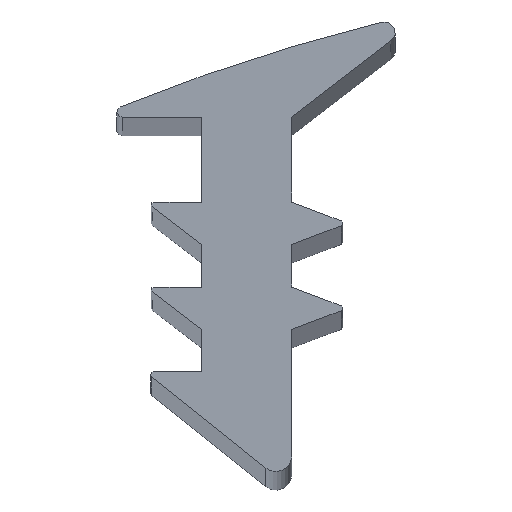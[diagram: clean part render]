
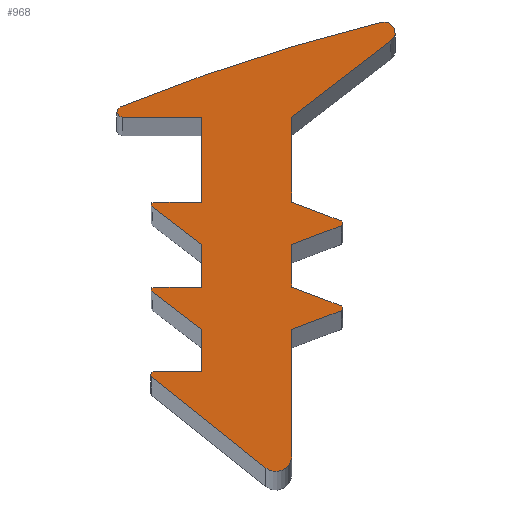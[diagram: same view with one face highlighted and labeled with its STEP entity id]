
A CAD part, top view. The second image highlights one B-rep face of the part: STEP entity #968.
In plain terms, the highlighted planar face has unit normal (0, 0, 1).
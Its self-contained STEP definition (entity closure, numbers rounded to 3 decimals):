
#49=CARTESIAN_POINT('',(-7.271,-13.665,200.0));
#50=VERTEX_POINT('',#49);
#51=CARTESIAN_POINT('',(-7.308,-13.472,200.0));
#52=VERTEX_POINT('',#51);
#53=CARTESIAN_POINT('',(-7.271,-13.565,200.0));
#54=DIRECTION('',(0.0,0.0,-1.));
#55=DIRECTION('',(-0.982,-0.191,0.0));
#56=AXIS2_PLACEMENT_3D('',#53,#54,#55);
#57=CIRCLE('',#56,0.1);
#58=EDGE_CURVE('',#50,#52,#57,.T.);
#100=CARTESIAN_POINT('',(-5.775,-13.665,200.0));
#101=VERTEX_POINT('',#100);
#108=CARTESIAN_POINT('',(-5.775,-13.665,200.0));
#109=DIRECTION('',(-1.0,0.0,0.0));
#110=VECTOR('',#109,1.496);
#111=LINE('',#108,#110);
#112=EDGE_CURVE('',#101,#50,#111,.T.);
#338=CARTESIAN_POINT('',(-4.075,-20.041,200.0));
#339=VERTEX_POINT('',#338);
#340=CARTESIAN_POINT('',(-4.563,-20.275,200.0));
#341=VERTEX_POINT('',#340);
#342=CARTESIAN_POINT('',(-4.375,-20.041,200.0));
#343=DIRECTION('',(0.0,0.0,-1.));
#344=DIRECTION('',(0.433,-0.901,0.0));
#345=AXIS2_PLACEMENT_3D('',#342,#343,#344);
#346=CIRCLE('',#345,0.3);
#347=EDGE_CURVE('',#339,#341,#346,.T.);
#372=CARTESIAN_POINT('',(-4.075,-17.665,200.0));
#373=VERTEX_POINT('',#372);
#380=CARTESIAN_POINT('',(-4.075,-17.665,200.0));
#381=DIRECTION('',(0.0,-1.0,0.0));
#382=VECTOR('',#381,2.376);
#383=LINE('',#380,#382);
#384=EDGE_CURVE('',#373,#339,#383,.T.);
#394=CARTESIAN_POINT('',(-2.377,-11.876,200.0));
#395=VERTEX_POINT('',#394);
#396=CARTESIAN_POINT('',(-2.207,-12.228,200.0));
#397=VERTEX_POINT('',#396);
#398=CARTESIAN_POINT('',(-2.329,-12.07,200.0));
#399=DIRECTION('',(0.0,0.0,-1.0));
#400=DIRECTION('',(0.901,0.434,0.0));
#401=AXIS2_PLACEMENT_3D('',#398,#399,#400);
#402=CIRCLE('',#401,0.2);
#403=EDGE_CURVE('',#395,#397,#402,.T.);
#427=CARTESIAN_POINT('',(6.345,-47.22,200.0));
#428=DIRECTION('',(0.0,0.0,-1.));
#429=DIRECTION('',(-0.215,0.977,0.0));
#430=AXIS2_PLACEMENT_3D('',#427,#428,#429);
#431=CIRCLE('',#430,36.405);
#432=EDGE_CURVE('',#52,#395,#431,.T.);
#444=CARTESIAN_POINT('',(-6.707,-16.955,200.0));
#445=VERTEX_POINT('',#444);
#446=CARTESIAN_POINT('',(-6.677,-16.865,200.0));
#447=VERTEX_POINT('',#446);
#448=CARTESIAN_POINT('',(-6.677,-16.915,200.0));
#449=DIRECTION('',(0.0,0.0,-1.));
#450=DIRECTION('',(-0.947,0.32,0.0));
#451=AXIS2_PLACEMENT_3D('',#448,#449,#450);
#452=CIRCLE('',#451,0.05);
#453=EDGE_CURVE('',#445,#447,#452,.T.);
#478=CARTESIAN_POINT('',(-5.775,-17.665,200.0));
#479=VERTEX_POINT('',#478);
#486=CARTESIAN_POINT('',(-5.775,-17.665,200.0));
#487=DIRECTION('',(-0.795,0.606,0.0));
#488=VECTOR('',#487,1.172);
#489=LINE('',#486,#488);
#490=EDGE_CURVE('',#479,#445,#489,.T.);
#500=CARTESIAN_POINT('',(-6.714,-18.554,200.0));
#501=VERTEX_POINT('',#500);
#502=CARTESIAN_POINT('',(-6.683,-18.465,200.0));
#503=VERTEX_POINT('',#502);
#504=CARTESIAN_POINT('',(-6.683,-18.515,200.0));
#505=DIRECTION('',(0.0,0.0,-1.));
#506=DIRECTION('',(-0.944,0.331,0.0));
#507=AXIS2_PLACEMENT_3D('',#504,#505,#506);
#508=CIRCLE('',#507,0.05);
#509=EDGE_CURVE('',#501,#503,#508,.T.);
#533=CARTESIAN_POINT('',(-4.563,-20.275,200.0));
#534=DIRECTION('',(-0.781,0.625,0.0));
#535=VECTOR('',#534,2.755);
#536=LINE('',#533,#535);
#537=EDGE_CURVE('',#341,#501,#536,.T.);
#549=CARTESIAN_POINT('',(-3.148,-17.218,200.0));
#550=VERTEX_POINT('',#549);
#551=CARTESIAN_POINT('',(-3.148,-17.312,200.0));
#552=VERTEX_POINT('',#551);
#553=CARTESIAN_POINT('',(-3.166,-17.265,200.0));
#554=DIRECTION('',(0.0,0.0,-1.0));
#555=DIRECTION('',(1.0,0.0,0.0));
#556=AXIS2_PLACEMENT_3D('',#553,#554,#555);
#557=CIRCLE('',#556,0.05);
#558=EDGE_CURVE('',#550,#552,#557,.T.);
#583=CARTESIAN_POINT('',(-4.075,-16.865,200.0));
#584=VERTEX_POINT('',#583);
#591=CARTESIAN_POINT('',(-4.075,-16.865,200.0));
#592=DIRECTION('',(0.934,-0.356,0.0));
#593=VECTOR('',#592,0.992);
#594=LINE('',#591,#593);
#595=EDGE_CURVE('',#584,#550,#594,.T.);
#605=CARTESIAN_POINT('',(-3.148,-15.618,200.0));
#606=VERTEX_POINT('',#605);
#607=CARTESIAN_POINT('',(-3.148,-15.712,200.0));
#608=VERTEX_POINT('',#607);
#609=CARTESIAN_POINT('',(-3.166,-15.665,200.0));
#610=DIRECTION('',(0.0,0.0,-1.0));
#611=DIRECTION('',(1.0,0.0,0.0));
#612=AXIS2_PLACEMENT_3D('',#609,#610,#611);
#613=CIRCLE('',#612,0.05);
#614=EDGE_CURVE('',#606,#608,#613,.T.);
#639=CARTESIAN_POINT('',(-4.075,-15.265,200.0));
#640=VERTEX_POINT('',#639);
#647=CARTESIAN_POINT('',(-4.075,-15.265,200.0));
#648=DIRECTION('',(0.934,-0.356,0.0));
#649=VECTOR('',#648,0.992);
#650=LINE('',#647,#649);
#651=EDGE_CURVE('',#640,#606,#650,.T.);
#661=CARTESIAN_POINT('',(-6.707,-15.355,200.0));
#662=VERTEX_POINT('',#661);
#663=CARTESIAN_POINT('',(-6.677,-15.265,200.0));
#664=VERTEX_POINT('',#663);
#665=CARTESIAN_POINT('',(-6.677,-15.315,200.0));
#666=DIRECTION('',(0.0,0.0,-1.0));
#667=DIRECTION('',(-0.947,0.32,0.0));
#668=AXIS2_PLACEMENT_3D('',#665,#666,#667);
#669=CIRCLE('',#668,0.05);
#670=EDGE_CURVE('',#662,#664,#669,.T.);
#694=CARTESIAN_POINT('',(-5.775,-15.265,200.0));
#695=VERTEX_POINT('',#694);
#696=CARTESIAN_POINT('',(-6.677,-15.265,200.0));
#697=DIRECTION('',(1.0,0.0,0.0));
#698=VECTOR('',#697,0.902);
#699=LINE('',#696,#698);
#700=EDGE_CURVE('',#664,#695,#699,.T.);
#718=CARTESIAN_POINT('',(-4.075,-13.665,200.0));
#719=VERTEX_POINT('',#718);
#720=CARTESIAN_POINT('',(-2.207,-12.228,200.0));
#721=DIRECTION('',(-0.793,-0.61,0.0));
#722=VECTOR('',#721,2.357);
#723=LINE('',#720,#722);
#724=EDGE_CURVE('',#397,#719,#723,.T.);
#741=CARTESIAN_POINT('',(-4.075,-13.665,200.0));
#742=DIRECTION('',(0.0,-1.0,0.0));
#743=VECTOR('',#742,1.6);
#744=LINE('',#741,#743);
#745=EDGE_CURVE('',#719,#640,#744,.T.);
#759=CARTESIAN_POINT('',(-4.075,-16.065,200.0));
#760=VERTEX_POINT('',#759);
#761=CARTESIAN_POINT('',(-3.148,-15.712,200.0));
#762=DIRECTION('',(-0.934,-0.356,0.0));
#763=VECTOR('',#762,0.992);
#764=LINE('',#761,#763);
#765=EDGE_CURVE('',#608,#760,#764,.T.);
#782=CARTESIAN_POINT('',(-4.075,-16.065,200.0));
#783=DIRECTION('',(0.0,-1.0,0.0));
#784=VECTOR('',#783,0.8);
#785=LINE('',#782,#784);
#786=EDGE_CURVE('',#760,#584,#785,.T.);
#800=CARTESIAN_POINT('',(-3.148,-17.312,200.0));
#801=DIRECTION('',(-0.934,-0.356,0.0));
#802=VECTOR('',#801,0.992);
#803=LINE('',#800,#802);
#804=EDGE_CURVE('',#552,#373,#803,.T.);
#817=CARTESIAN_POINT('',(-5.775,-18.465,200.0));
#818=VERTEX_POINT('',#817);
#819=CARTESIAN_POINT('',(-6.683,-18.465,200.0));
#820=DIRECTION('',(1.0,0.0,0.0));
#821=VECTOR('',#820,0.907);
#822=LINE('',#819,#821);
#823=EDGE_CURVE('',#503,#818,#822,.T.);
#840=CARTESIAN_POINT('',(-5.775,-18.465,200.0));
#841=DIRECTION('',(0.0,1.0,0.0));
#842=VECTOR('',#841,0.8);
#843=LINE('',#840,#842);
#844=EDGE_CURVE('',#818,#479,#843,.T.);
#858=CARTESIAN_POINT('',(-5.775,-16.865,200.0));
#859=VERTEX_POINT('',#858);
#860=CARTESIAN_POINT('',(-6.677,-16.865,200.0));
#861=DIRECTION('',(1.0,0.0,0.0));
#862=VECTOR('',#861,0.902);
#863=LINE('',#860,#862);
#864=EDGE_CURVE('',#447,#859,#863,.T.);
#881=CARTESIAN_POINT('',(-5.775,-16.065,200.0));
#882=VERTEX_POINT('',#881);
#883=CARTESIAN_POINT('',(-5.775,-16.865,200.0));
#884=DIRECTION('',(0.0,1.0,0.0));
#885=VECTOR('',#884,0.8);
#886=LINE('',#883,#885);
#887=EDGE_CURVE('',#859,#882,#886,.T.);
#908=CARTESIAN_POINT('',(-5.775,-16.065,200.0));
#909=DIRECTION('',(-0.795,0.606,0.0));
#910=VECTOR('',#909,1.172);
#911=LINE('',#908,#910);
#912=EDGE_CURVE('',#882,#662,#911,.T.);
#922=CARTESIAN_POINT('',(-5.775,-15.265,200.0));
#923=DIRECTION('',(0.0,1.0,0.0));
#924=VECTOR('',#923,1.6);
#925=LINE('',#922,#924);
#926=EDGE_CURVE('',#695,#101,#925,.T.);
#934=CARTESIAN_POINT('',(-4.826,-15.631,200.0));
#935=DIRECTION('',(0.0,0.0,1.0));
#936=DIRECTION('',(1.0,0.0,0.0));
#937=AXIS2_PLACEMENT_3D('',#934,#935,#936);
#938=PLANE('',#937);
#939=ORIENTED_EDGE('',*,*,#58,.F.);
#940=ORIENTED_EDGE('',*,*,#112,.F.);
#941=ORIENTED_EDGE('',*,*,#926,.F.);
#942=ORIENTED_EDGE('',*,*,#700,.F.);
#943=ORIENTED_EDGE('',*,*,#670,.F.);
#944=ORIENTED_EDGE('',*,*,#912,.F.);
#945=ORIENTED_EDGE('',*,*,#887,.F.);
#946=ORIENTED_EDGE('',*,*,#864,.F.);
#947=ORIENTED_EDGE('',*,*,#453,.F.);
#948=ORIENTED_EDGE('',*,*,#490,.F.);
#949=ORIENTED_EDGE('',*,*,#844,.F.);
#950=ORIENTED_EDGE('',*,*,#823,.F.);
#951=ORIENTED_EDGE('',*,*,#509,.F.);
#952=ORIENTED_EDGE('',*,*,#537,.F.);
#953=ORIENTED_EDGE('',*,*,#347,.F.);
#954=ORIENTED_EDGE('',*,*,#384,.F.);
#955=ORIENTED_EDGE('',*,*,#804,.F.);
#956=ORIENTED_EDGE('',*,*,#558,.F.);
#957=ORIENTED_EDGE('',*,*,#595,.F.);
#958=ORIENTED_EDGE('',*,*,#786,.F.);
#959=ORIENTED_EDGE('',*,*,#765,.F.);
#960=ORIENTED_EDGE('',*,*,#614,.F.);
#961=ORIENTED_EDGE('',*,*,#651,.F.);
#962=ORIENTED_EDGE('',*,*,#745,.F.);
#963=ORIENTED_EDGE('',*,*,#724,.F.);
#964=ORIENTED_EDGE('',*,*,#403,.F.);
#965=ORIENTED_EDGE('',*,*,#432,.F.);
#966=EDGE_LOOP('',(#939,#940,#941,#942,#943,#944,#945,#946,#947,#948,#949,#950,#951,#952,#953,#954,#955,#956,#957,#958,#959,#960,#961,#962,#963,#964,#965));
#967=FACE_OUTER_BOUND('',#966,.T.);
#968=ADVANCED_FACE('',(#967),#938,.T.);
